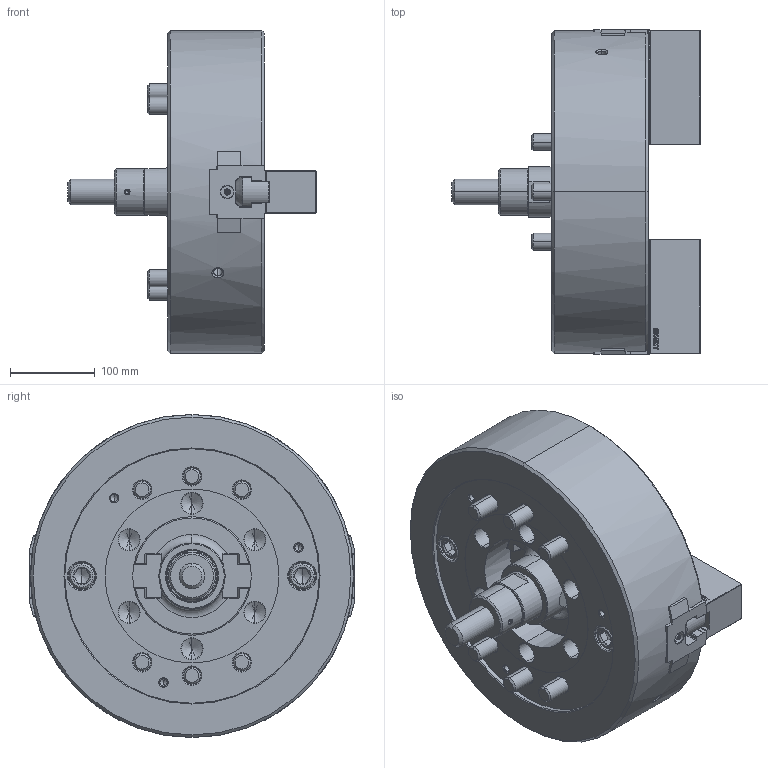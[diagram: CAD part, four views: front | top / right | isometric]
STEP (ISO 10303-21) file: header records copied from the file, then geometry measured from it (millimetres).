
FILE_DESCRIPTION (( 'STEP AP214' ), '1' );
FILE_NAME ('DT1_NT15_OUTSIDE_VIEW_UC.STEP', '2026-03-23T23:30:51', ( '' ), ( '' ), 'SwSTEP 2.0', 'SolidWorks 2022', '' );
FILE_SCHEMA (( 'AUTOMOTIVE_DESIGN' ));
Length unit declared in the file: millimetre
Products named in the file (11): DT1_NT15_DRAWSCREW^DT1_NT15; DT1_NT15_TNUT^DT1_NT15; Copy of 61P321208^DT1_NT15; DT1_NT15_DN^DT1_NT15; DT1_NT15_M6x12^DT1_NT15; DT1_NT15_BASE^DT1_NT15; DT1_NT15_SOFTJAW^DT1_NT15; DT1_NT15_M20x55^DT1_NT15; DT1_NT15_COVER^DT1_NT15; DT1_NT15_OUTSIDE_VIEW_UC; DT1_NT15_M20x115^DT1_NT15
Assembly tree (25 placements, depth 2):
  DT1_NT15_OUTSIDE_VIEW_UC
    DT1_NT15_SOFTJAW^DT1_NT15  x2
    DT1_NT15_TNUT^DT1_NT15  x4
    DT1_NT15_COVER^DT1_NT15
    DT1_NT15_DRAWSCREW^DT1_NT15
    Copy of 61P321208^DT1_NT15
    DT1_NT15_DN^DT1_NT15
    DT1_NT15_BASE^DT1_NT15
    DT1_NT15_M6x12^DT1_NT15  x4
    DT1_NT15_M20x55^DT1_NT15  x4
    DT1_NT15_M20x115^DT1_NT15  x6
Bounding box: 293 x 383 x 381 mm (x, y, z)
Volume: 12829121.6 mm3; surface area: 880744.6 mm2
Topology: 25 solids, 25 shells, 4869 faces, 13913 edges, 9103 vertices
Faces by surface type: plane 2945, cylinder 1316, cone 385, bspline 179, torus 40, sphere 4
Entity records: 120657 total; most frequent: CARTESIAN_POINT 33179, ORIENTED_EDGE 20074, DIRECTION 15580, EDGE_CURVE 10037, VECTOR 7232, LINE 7232, VERTEX_POINT 6588, AXIS2_PLACEMENT_3D 4174
